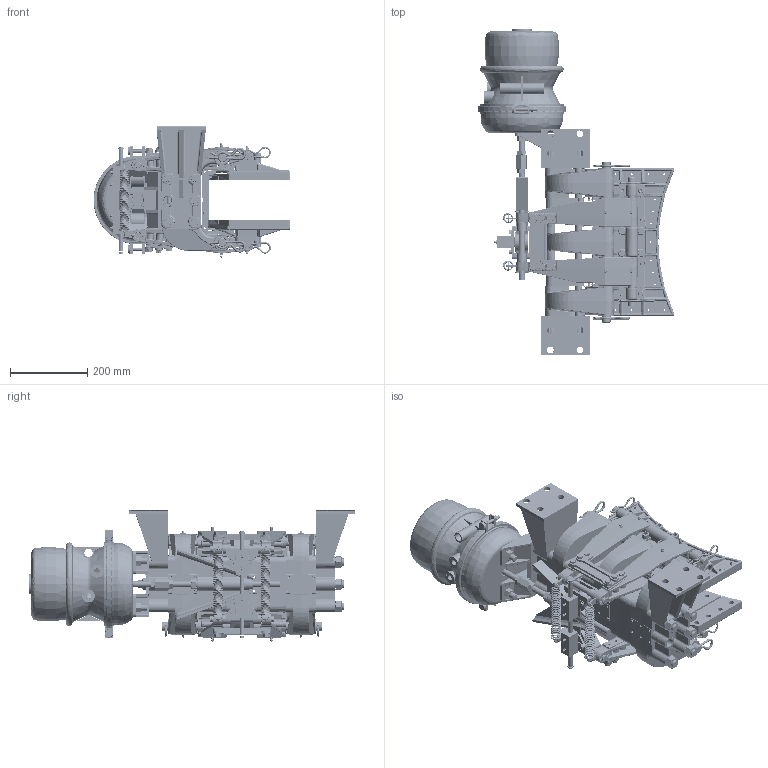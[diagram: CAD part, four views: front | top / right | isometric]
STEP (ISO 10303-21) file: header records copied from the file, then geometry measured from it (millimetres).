
FILE_DESCRIPTION (( 'STEP AP214' ), '1' );
FILE_NAME ('5026-CMW.STEP', '2019-01-29T18:40:25', ( '' ), ( '' ), 'SwSTEP 2.0', 'SolidWorks 2017', '' );
FILE_SCHEMA (( 'AUTOMOTIVE_DESIGN' ));
Length unit declared in the file: inch
Products named in the file (1): 5026-CMW
Bounding box: 508.6 x 842.64 x 338.8 mm (x, y, z)
Surface area: 2408551.2 mm2 (no closed solid volume)
Topology: 0 solids, 283 shells, 4649 faces, 15862 edges, 10932 vertices
Faces by surface type: cylinder 1437, plane 1434, bspline 794, cone 584, torus 390, sphere 10
Entity records: 310862 total; most frequent: CARTESIAN_POINT 127295, ORIENTED_EDGE 24258, DIRECTION 23750, EDGE_CURVE 15797, VERTEX_POINT 10932, AXIS2_PLACEMENT_3D 9056, VECTOR 5638, LINE 5638
